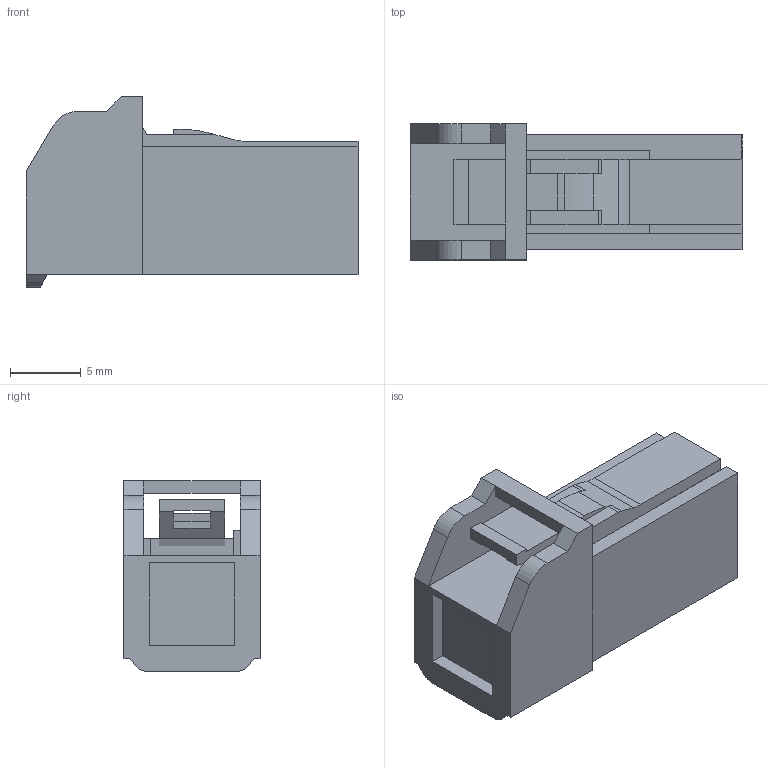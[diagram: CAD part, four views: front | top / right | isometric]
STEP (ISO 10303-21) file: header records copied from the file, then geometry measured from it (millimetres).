
FILE_DESCRIPTION(('CATIA V5 STEP','CAx-IF Rec.Pracs.--- Model Styling and Organization---1.5--- 2016-08-15','CAx-IF Rec.Pracs.---Supplemental Geometry---1.0---2011-11-01','CAx-IF Rec.Pracs.--- Composite Materials ---1.1---2010-07-15'),'2;1');
FILE_NAME('\\fss02.ad.sws.co.jp\fs100070\事務・購入\特命業務\特-35ｰ部品総合カタログメンテナンス\26年度\WEBカタログ用3D\260612_webカタログ新規登録用簡易3D\モデル保存場所\HFD-S2シリーズ\6099-0578.stp','2026-06-25T09:15:06+00:00',('none'),('none'),'CATIA Version 5-6 Release 2022 SP2 HF23','CATIA V5 STEP AP214 v2','none');
FILE_SCHEMA(('AUTOMOTIVE_DESIGN { 1 0 10303 214 1 1 1 1 }'));
Length unit declared in the file: millimetre
Products named in the file (1): 6099-0578
Bounding box: 23.4 x 9.6 x 13.45 mm (x, y, z)
Volume: 1716.6 mm3; surface area: 1481.6 mm2
Topology: 1 solids, 1 shells, 98 faces, 277 edges, 182 vertices
Faces by surface type: plane 90, cylinder 8
Entity records: 3060 total; most frequent: CARTESIAN_POINT 572, ORIENTED_EDGE 554, DIRECTION 433, EDGE_CURVE 277, VECTOR 261, LINE 261, VERTEX_POINT 182, EDGE_LOOP 103
